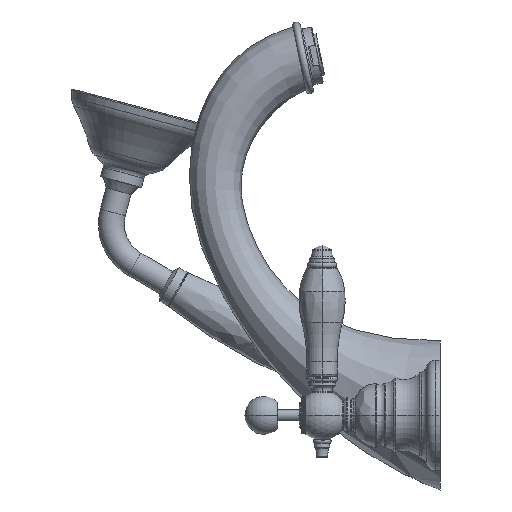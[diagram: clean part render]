
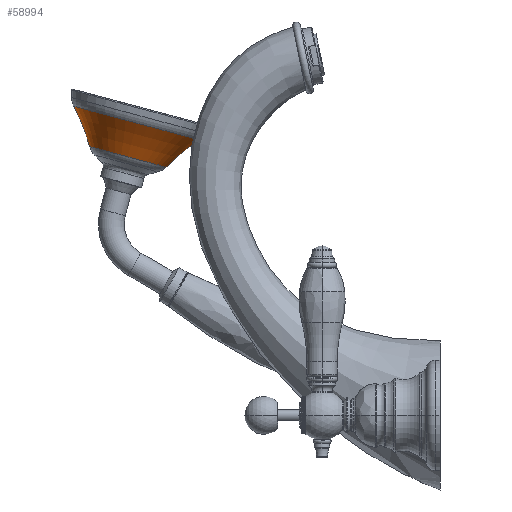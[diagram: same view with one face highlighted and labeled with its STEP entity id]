
A CAD part, left-side view. The second image highlights one B-rep face of the part: STEP entity #58994.
In plain terms, the highlighted toroidal (fillet/blend) face has major radius 108.294 mm and minor radius 100 mm.
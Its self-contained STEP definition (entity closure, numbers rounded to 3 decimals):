
#54577=CARTESIAN_POINT('',(240.,169.603,140.249));
#54578=DIRECTION('',(0.,-0.259,0.966));
#54579=DIRECTION('',(0.,0.966,0.259));
#54580=AXIS2_PLACEMENT_3D('',#54577,#54578,#54579);
#54582=CARTESIAN_POINT('',(240.,287.036,120.402));
#54583=DIRECTION('',(-1.,0.,0.));
#54584=DIRECTION('',(0.,-0.967,0.254));
#54585=AXIS2_PLACEMENT_3D('',#54582,#54583,#54584);
#54587=CARTESIAN_POINT('',(240.,164.708,158.519));
#54588=DIRECTION('',(0.,-0.259,0.966));
#54589=DIRECTION('',(0.,0.966,0.259));
#54590=AXIS2_PLACEMENT_3D('',#54587,#54588,#54589);
#54592=CARTESIAN_POINT('',(240.,77.828,64.345));
#54593=DIRECTION('',(1.,0.,0.));
#54594=DIRECTION('',(0.,0.711,0.704));
#54595=AXIS2_PLACEMENT_3D('',#54592,#54593,#54594);
#57444=CARTESIAN_POINT('',(240.,190.314,145.799));
#57445=CARTESIAN_POINT('',(240.,148.893,134.7));
#57446=VERTEX_POINT('',#57444);
#57447=VERTEX_POINT('',#57445);
#57456=CARTESIAN_POINT('',(240.,198.921,167.686));
#57457=CARTESIAN_POINT('',(240.,130.495,149.352));
#57458=VERTEX_POINT('',#57456);
#57459=VERTEX_POINT('',#57457);
#58983=CARTESIAN_POINT('',(240.,182.432,92.374));
#58984=DIRECTION('',(0.,0.259,-0.966));
#58985=DIRECTION('',(0.,-0.966,-0.259));
#58986=AXIS2_PLACEMENT_3D('',#58983,#58984,#58985);
#58987=TOROIDAL_SURFACE('',#58986,108.294,100.);
#58988=ORIENTED_EDGE('',*,*,#58974,.F.);
#58989=ORIENTED_EDGE('',*,*,#58949,.T.);
#58990=ORIENTED_EDGE('',*,*,#58919,.T.);
#58991=ORIENTED_EDGE('',*,*,#58946,.F.);
#58992=EDGE_LOOP('',(#58988,#58989,#58990,#58991));
#58993=FACE_OUTER_BOUND('',#58992,.F.);
#58994=ADVANCED_FACE('',(#58993),#58987,.F.);
#54581=CIRCLE('',#54580,21.442);
#54586=CIRCLE('',#54585,100.);
#54591=CIRCLE('',#54590,35.42);
#54596=CIRCLE('',#54595,100.);
#58919=EDGE_CURVE('',#57458,#57459,#54591,.T.);
#58946=EDGE_CURVE('',#57447,#57459,#54596,.T.);
#58949=EDGE_CURVE('',#57446,#57458,#54586,.T.);
#58974=EDGE_CURVE('',#57446,#57447,#54581,.T.);
